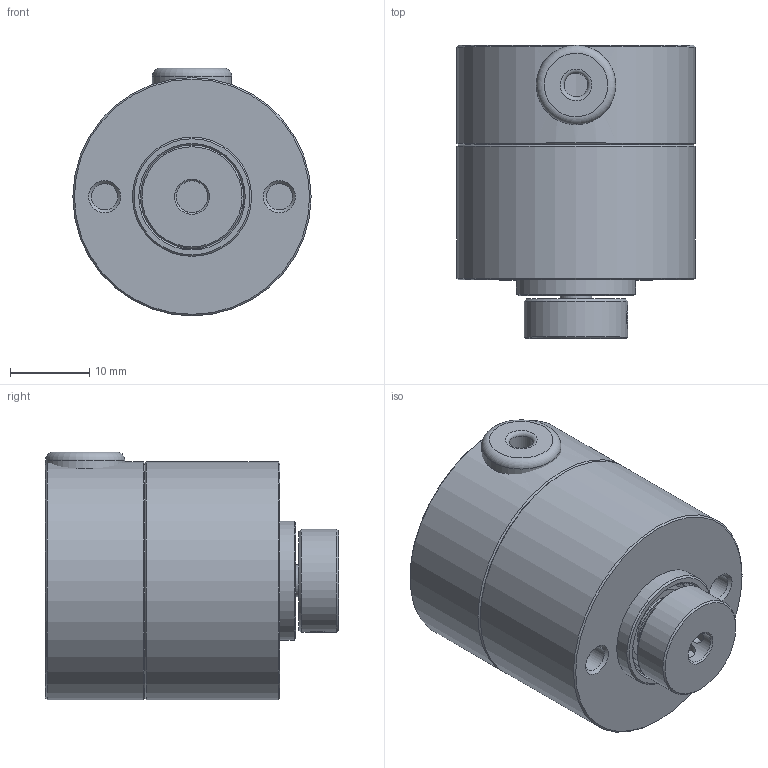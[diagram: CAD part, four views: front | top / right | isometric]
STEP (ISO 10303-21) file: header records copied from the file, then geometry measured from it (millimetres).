
FILE_DESCRIPTION (( 'STEP AP214' ), '1' );
FILE_NAME ('27-P7xxR.STEP', '2020-12-22T10:03:32', ( '' ), ( '' ), 'SwSTEP 2.0', 'SolidWorks 2019', '' );
FILE_SCHEMA (( 'AUTOMOTIVE_DESIGN' ));
Length unit declared in the file: millimetre
Products named in the file (1): 27-P7xxR
Bounding box: 30 x 36.9 x 31.2 mm (x, y, z)
Surface area: 5591.9 mm2 (no closed solid volume)
Topology: 0 solids, 11 shells, 57 faces, 143 edges, 98 vertices
Faces by surface type: plane 22, cone 17, cylinder 14, torus 4
Full cylindrical faces by diameter (mm): 2.5 x2, 3 x1, 3.3 x2, 4 x1, 7.9 x1, 10 x1, 11.7 x1, 13 x2, 15 x1, 30 x2
Entity records: 2274 total; most frequent: CARTESIAN_POINT 453, DIRECTION 259, ORIENTED_EDGE 147, AXIS2_PLACEMENT_3D 113, EDGE_LOOP 110, EDGE_CURVE 93, VERTEX_POINT 85, FACE_OUTER_BOUND 75
